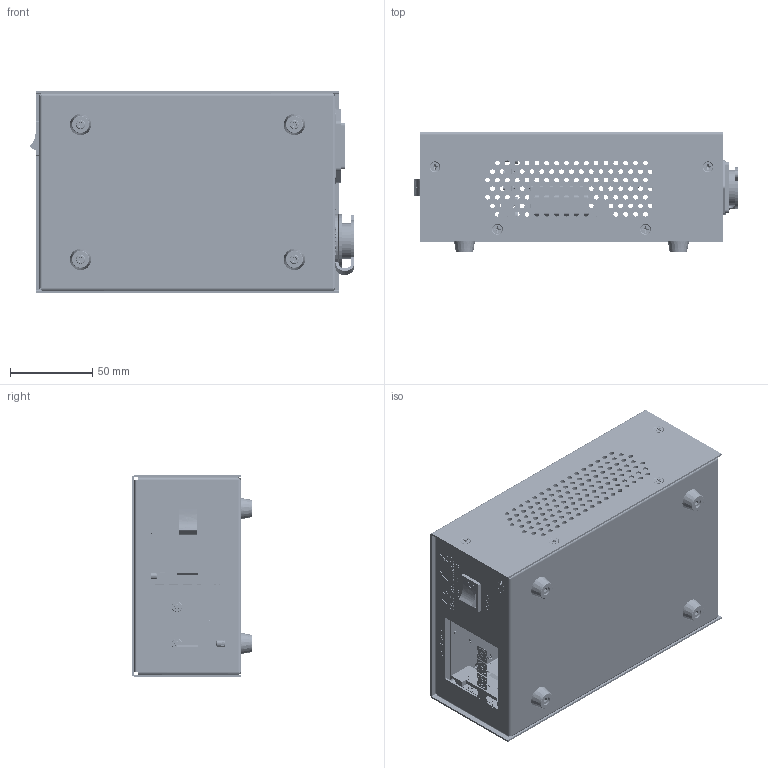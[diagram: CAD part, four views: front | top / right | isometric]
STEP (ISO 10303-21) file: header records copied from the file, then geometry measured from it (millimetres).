
FILE_DESCRIPTION(/* description */ (''),/* implementation_level */ '2;1');
FILE_NAME(/* name */ 'A:\3D Projects\3D Standard Parts\1667508 SD15 Heat Controller Assembly\1667508 SD15 Heat Controller Assembly.stp',/* time_stamp */ '2014-05-30T11:39:16-04:00',/* author */ ('patch'),/* organization */ (''),/* preprocessor_version */ 'ST-DEVELOPER v15.6',/* originating_system */ 'Autodesk Inventor 2015',/* authorisation */ '');
FILE_SCHEMA (('AUTOMOTIVE_DESIGN { 1 0 10303 214 3 1 1 }'));
Products named in the file (38): 8903345 SD15 Heat Controller Enclosure Base; 8902972 Self Clinching Stud M4 x 15; 8903162 Self Clinching Stud M3 x 15; 8903440 Self Clinching M3 Nut For 0.047 Steel; 8903164 Solid State Relay PCB Insulator Plate 1; 8903165 Solid State Relay PCB Insulator Plate 2; 8903163 Solid State Relay PCB LED; 8903163 Solid State Relay PCB Board; 8903163 Solid State Relay PCB Wire Connections; 8903163 Solid State Relay PCB Resistor; 8903163 Solid State Relay PCB Relay; 8903163 Solid State Relay PCB Assembly; 8900233 Hex Nut M3 x 0.5; 8902806 Power Input Module Switch; 8903359 Temperature Controller Bracket; 8903359 Temperature Controller Screws; 8903359 Temperature Controller; 8903359 s4e-1; 8903359 s4e-2; 8903372 M4 External Tooth Lock Washer; 8900225 Hex Nut M4; 8902842 Phillips Flat Head Screw 90 Degree M3 x 0.5 x 8; 8903346 Power Input Module With Filter; 8903347 Rubber Foot; 985553 Socket Head Cap Screw M3 x 0.5 x 8mm; 8903344 SD15 Heat Controller Enclosure Cover; 988341 Rev C Spare Parts and Service Label; 986209 Rev A Primary Ground Label; 8902734 Serial Number Label; 8900605 Rev A RoHS Compliant Label; 8903439 Circular Connector Dust Cover; 8903435 Circular Connector Female 5 Pin; 8903441 Phillips Flat Head 90 Degree, M3 x 0.5 x 6mm; 1667508 SD15 Heat Controller Assembly
Bounding box: 197.45 x 73.28 x 122.6 mm (x, y, z)
Volume: 185285.8 mm3; surface area: 247266.6 mm2
Topology: 167 solids, 176 shells, 10821 faces, 29254 edges, 19451 vertices
Faces by surface type: plane 5787, bspline 3147, cylinder 1191, cone 628, torus 55, sphere 13
Full cylindrical faces by diameter (mm): 0.18 x4, 0.4 x4, 0.5 x2, 0.6 x4, 1 x4, 1.2 x8, 1.3 x1, 1.4 x5, 1.8 x1, 2 x4, 2.3 x13, 2.4 x10, 2.459 x17, 2.594 x140, 3 x366, 3.2 x21, 3.3 x2, 3.4 x9, 3.441 x8, 3.5 x3, 3.6 x4, 3.8 x4, 3.91 x4, 3.988 x1, 4 x31, 4.2 x17, 4.22 x17, 4.3 x2, 5.015 x2, 5.275 x17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
Entity records: 395367 total; most frequent: CARTESIAN_POINT 143659, ORIENTED_EDGE 57070, DIRECTION 37653, EDGE_CURVE 27976, LINE 19375, VECTOR 19375, VERTEX_POINT 18872, EDGE_LOOP 12932
